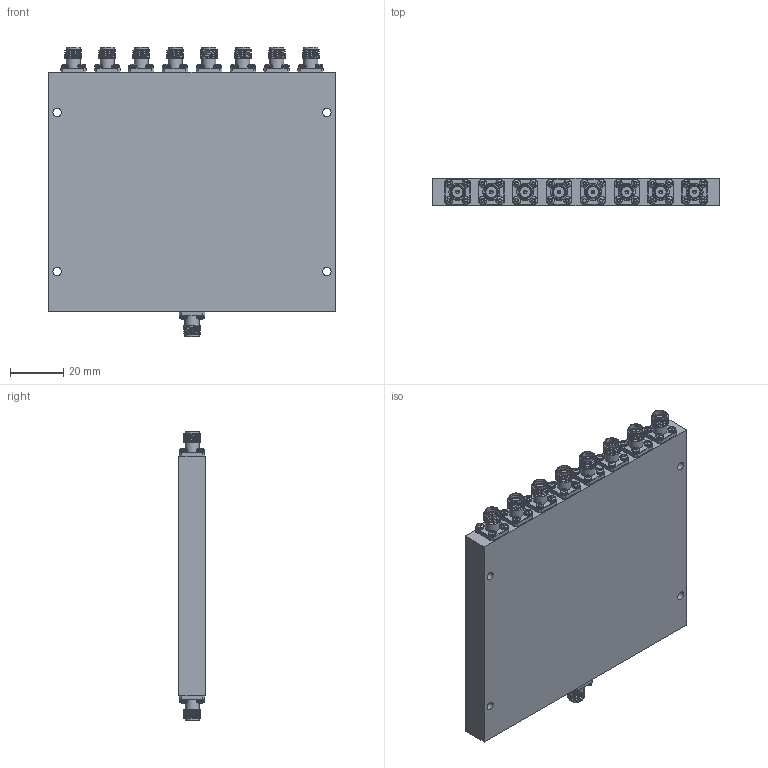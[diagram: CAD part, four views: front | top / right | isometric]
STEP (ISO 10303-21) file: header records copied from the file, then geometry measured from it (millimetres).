
FILE_DESCRIPTION (( 'STEP AP214' ), '1' );
FILE_NAME ('APD-8-2G18G-SFF-30W.STEP', '2026-07-01T15:38:25', ( '' ), ( '' ), 'SwSTEP 2.0', 'SolidWorks 2025', '' );
FILE_SCHEMA (( 'AUTOMOTIVE_DESIGN' ));
Length unit declared in the file: inch
Products named in the file (1): APD-8-2G18G-SFF-30W
Bounding box: 107.44 x 10.11 x 108.51 mm (x, y, z)
Volume: 99884.2 mm3; surface area: 46832.1 mm2
Topology: 83 solids, 83 shells, 2598 faces, 7327 edges, 5223 vertices
Faces by surface type: plane 1204, cylinder 863, torus 279, cone 198, sphere 36, bspline 18
Full cylindrical faces by diameter (mm): 0.381 x9, 0.635 x9, 1.016 x9, 1.27 x9, 1.524 x36, 1.702 x36, 2.946 x36, 3.175 x4, 3.302 x9, 4.191 x18, 4.597 x9, 5.283 x18
Entity records: 128325 total; most frequent: CARTESIAN_POINT 32868, ORIENTED_EDGE 13530, DIRECTION 11880, EDGE_CURVE 6765, VERTEX_POINT 5196, AXIS2_PLACEMENT_3D 4443, EDGE_LOOP 3541, FACE_OUTER_BOUND 3115
